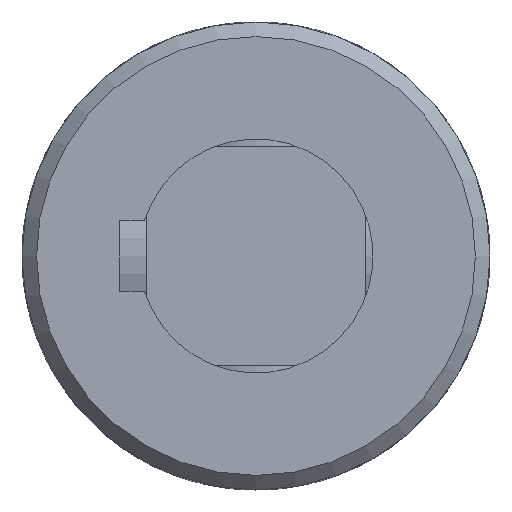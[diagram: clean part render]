
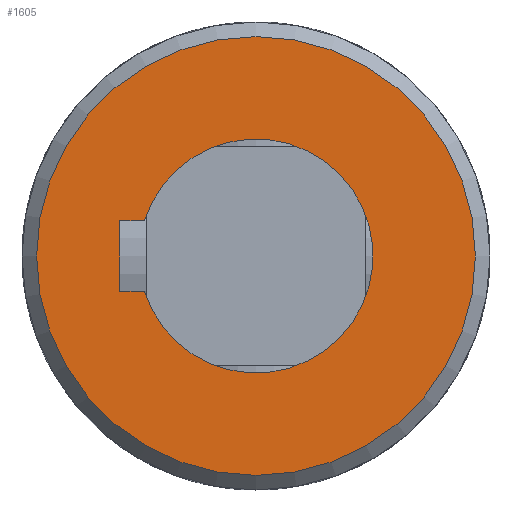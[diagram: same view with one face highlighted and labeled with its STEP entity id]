
A CAD part, front view. The second image highlights one B-rep face of the part: STEP entity #1605.
In plain terms, the highlighted planar face has unit normal (0, -1, 0).
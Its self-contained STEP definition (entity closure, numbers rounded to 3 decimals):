
#111=LINE('',#3140,#170);
#114=LINE('',#3158,#173);
#119=LINE('',#3178,#178);
#170=VECTOR('',#2086,4.221);
#173=VECTOR('',#2097,4.221);
#178=VECTOR('',#2106,12.);
#289=PLANE('',#1766);
#367=FACE_BOUND('',#584,.T.);
#448=FACE_OUTER_BOUND('',#583,.T.);
#583=EDGE_LOOP('',(#1411));
#584=EDGE_LOOP('',(#1412,#1413,#1414,#1415));
#664=CIRCLE('',#1752,20.);
#670=CIRCLE('',#1764,37.5);
#796=VERTEX_POINT('',#3137);
#797=VERTEX_POINT('',#3139);
#800=VERTEX_POINT('',#3149);
#802=VERTEX_POINT('',#3157);
#815=VERTEX_POINT('',#3267);
#994=EDGE_CURVE('',#797,#796,#111,.T.);
#998=EDGE_CURVE('',#800,#797,#664,.T.);
#1001=EDGE_CURVE('',#802,#800,#114,.T.);
#1009=EDGE_CURVE('',#796,#802,#119,.T.);
#1020=EDGE_CURVE('',#815,#815,#670,.T.);
#1411=ORIENTED_EDGE('',*,*,#1020,.F.);
#1412=ORIENTED_EDGE('',*,*,#994,.T.);
#1413=ORIENTED_EDGE('',*,*,#1009,.T.);
#1414=ORIENTED_EDGE('',*,*,#1001,.T.);
#1415=ORIENTED_EDGE('',*,*,#998,.T.);
#1605=ADVANCED_FACE('',(#448,#367),#289,.F.);
#1752=AXIS2_PLACEMENT_3D('',#3150,#2092,#2093);
#1764=AXIS2_PLACEMENT_3D('',#3268,#2123,#2124);
#1766=AXIS2_PLACEMENT_3D('',#3508,#2131,#2132);
#2086=DIRECTION('',(0.,0.,-1.));
#2092=DIRECTION('center_axis',(0.,1.,0.));
#2093=DIRECTION('ref_axis',(-0.3,0.,0.954));
#2097=DIRECTION('',(0.,0.,1.));
#2106=DIRECTION('',(-1.,0.,0.));
#2123=DIRECTION('center_axis',(0.,1.,0.));
#2124=DIRECTION('ref_axis',(1.,0.,0.));
#2131=DIRECTION('center_axis',(0.,1.,0.));
#2132=DIRECTION('ref_axis',(0.,0.,1.));
#3137=CARTESIAN_POINT('',(6.,-99.,-23.3));
#3139=CARTESIAN_POINT('',(6.,-99.,-19.079));
#3140=CARTESIAN_POINT('',(6.,-99.,-9.539));
#3149=CARTESIAN_POINT('',(-6.,-99.,-19.079));
#3150=CARTESIAN_POINT('Origin',(0.,-99.,0.));
#3157=CARTESIAN_POINT('',(-6.,-99.,-23.3));
#3158=CARTESIAN_POINT('',(-6.,-99.,-11.65));
#3178=CARTESIAN_POINT('',(3.,-99.,-23.3));
#3267=CARTESIAN_POINT('',(-37.5,-99.,0.));
#3268=CARTESIAN_POINT('Origin',(0.,-99.,0.));
#3508=CARTESIAN_POINT('Origin',(0.,-99.,0.));
